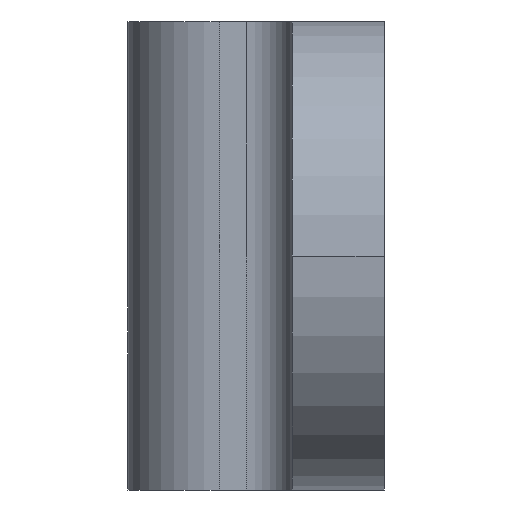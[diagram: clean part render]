
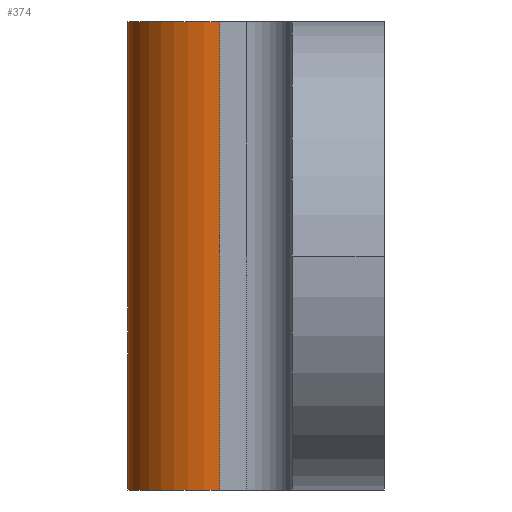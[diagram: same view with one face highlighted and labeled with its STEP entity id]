
A CAD part, left-side view. The second image highlights one B-rep face of the part: STEP entity #374.
In plain terms, the highlighted cylindrical face has radius 2 mm (diameter 4 mm), a partial arc.
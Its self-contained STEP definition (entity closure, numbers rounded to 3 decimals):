
#31 = AXIS2_PLACEMENT_3D ( 'NONE', #920, #836, #446 ) ;
#36 = CARTESIAN_POINT ( 'NONE',  ( -13.97, 3.59, -5.1 ) ) ;
#39 = VERTEX_POINT ( 'NONE', #1196 ) ;
#143 = LINE ( 'NONE', #1009, #363 ) ;
#156 = DIRECTION ( 'NONE',  ( 0., 0., 1. ) ) ;
#230 = ORIENTED_EDGE ( 'NONE', *, *, #407, .F. ) ;
#248 = FACE_OUTER_BOUND ( 'NONE', #757, .T. ) ;
#350 = DIRECTION ( 'NONE',  ( 0., 0., 1. ) ) ;
#363 = VECTOR ( 'NONE', #1218, 1000. ) ;
#374 = ADVANCED_FACE ( 'NONE', ( #248 ), #626, .T. ) ;
#386 = AXIS2_PLACEMENT_3D ( 'NONE', #1237, #350, #1032 ) ;
#407 = EDGE_CURVE ( 'NONE', #1158, #704, #793, .T. ) ;
#441 = CARTESIAN_POINT ( 'NONE',  ( -13.97, 3.59, 5.1 ) ) ;
#446 = DIRECTION ( 'NONE',  ( 1., 0., 0. ) ) ;
#493 = ORIENTED_EDGE ( 'NONE', *, *, #633, .F. ) ;
#506 = ORIENTED_EDGE ( 'NONE', *, *, #643, .F. ) ;
#512 = ORIENTED_EDGE ( 'NONE', *, *, #951, .F. ) ;
#529 = LINE ( 'NONE', #36, #1148 ) ;
#626 = CYLINDRICAL_SURFACE ( 'NONE', #962, 2. ) ;
#633 = EDGE_CURVE ( 'NONE', #39, #1158, #143, .T. ) ;
#643 = EDGE_CURVE ( 'NONE', #704, #926, #529, .T. ) ;
#704 = VERTEX_POINT ( 'NONE', #441 ) ;
#707 = DIRECTION ( 'NONE',  ( 0., 0., -1. ) ) ;
#757 = EDGE_LOOP ( 'NONE', ( #230, #493, #512, #506 ) ) ;
#793 = CIRCLE ( 'NONE', #386, 2. ) ;
#813 = CARTESIAN_POINT ( 'NONE',  ( -13.97, 3.59, -5.1 ) ) ;
#836 = DIRECTION ( 'NONE',  ( 0., 0., -1. ) ) ;
#920 = CARTESIAN_POINT ( 'NONE',  ( -11.97, 3.59, -5.1 ) ) ;
#921 = DIRECTION ( 'NONE',  ( 1., 0., 0. ) ) ;
#926 = VERTEX_POINT ( 'NONE', #813 ) ;
#951 = EDGE_CURVE ( 'NONE', #926, #39, #1139, .T. ) ;
#962 = AXIS2_PLACEMENT_3D ( 'NONE', #1028, #156, #921 ) ;
#1009 = CARTESIAN_POINT ( 'NONE',  ( -11.97, 5.59, 5.1 ) ) ;
#1028 = CARTESIAN_POINT ( 'NONE',  ( -11.97, 3.59, 5.1 ) ) ;
#1032 = DIRECTION ( 'NONE',  ( 1., 0., 0. ) ) ;
#1139 = CIRCLE ( 'NONE', #31, 2. ) ;
#1148 = VECTOR ( 'NONE', #707, 1000. ) ;
#1158 = VERTEX_POINT ( 'NONE', #1260 ) ;
#1196 = CARTESIAN_POINT ( 'NONE',  ( -11.97, 5.59, -5.1 ) ) ;
#1218 = DIRECTION ( 'NONE',  ( 0., 0., 1. ) ) ;
#1237 = CARTESIAN_POINT ( 'NONE',  ( -11.97, 3.59, 5.1 ) ) ;
#1260 = CARTESIAN_POINT ( 'NONE',  ( -11.97, 5.59, 5.1 ) ) ;
